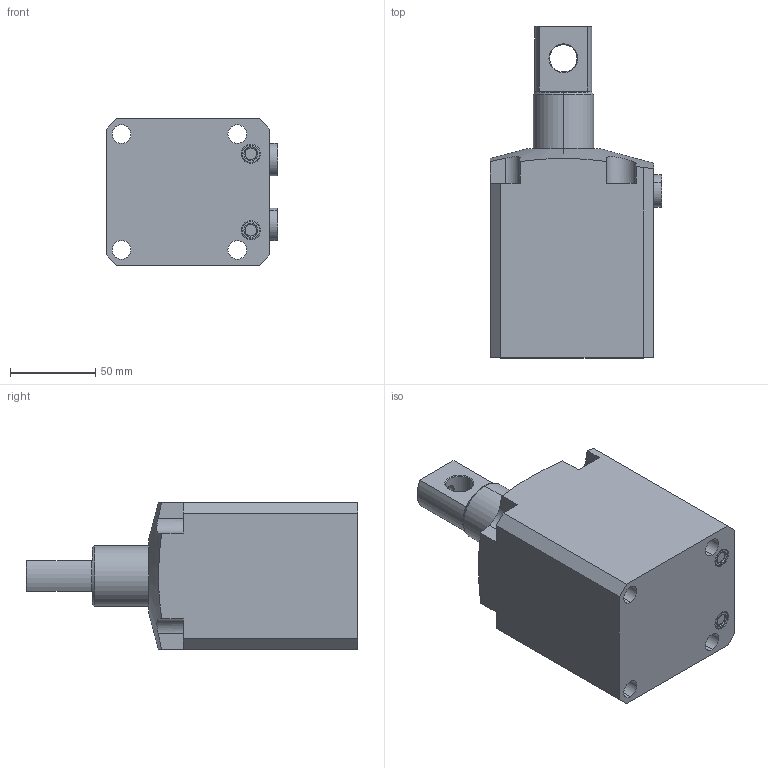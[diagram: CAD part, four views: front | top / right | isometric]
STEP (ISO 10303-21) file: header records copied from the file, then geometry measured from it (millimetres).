
FILE_DESCRIPTION(/* description */ (''),/* implementation_level */ '2;1');
FILE_NAME(/* name */ 'BRC16-P.stp',/* time_stamp */ '2025-01-05T09:00:54+08:00',/* author */ (''),/* organization */ (''),/* preprocessor_version */ 'ST-DEVELOPER v16.7',/* originating_system */ 'SIEMENS PLM Software NX 12.0',/* authorisation */ '');
FILE_SCHEMA (('AUTOMOTIVE_DESIGN { 1 0 10303 214 3 1 1 1 }'));
Length unit declared in the file: millimetre
Products named in the file (4): BRC16-P-03; BRC16-P-02; BRC16-P-01; BTU16-LP_step
Assembly tree (4 placements, depth 2):
  BTU16-LP_step
    BRC16-P-01
    BRC16-P-02
    BRC16-P-03  x2
Bounding box: 100.8 x 195 x 86 mm (x, y, z)
Volume: 944439.9 mm3; surface area: 88893.4 mm2
Topology: 6 solids, 6 shells, 148 faces, 341 edges, 214 vertices
Faces by surface type: plane 57, cylinder 51, torus 20, cone 20
Full cylindrical faces by diameter (mm): 13 x2
Entity records: 3904 total; most frequent: CARTESIAN_POINT 840, DIRECTION 649, ORIENTED_EDGE 586, EDGE_CURVE 293, AXIS2_PLACEMENT_3D 262, VERTEX_POINT 186, EDGE_LOOP 151, CIRCLE 131
